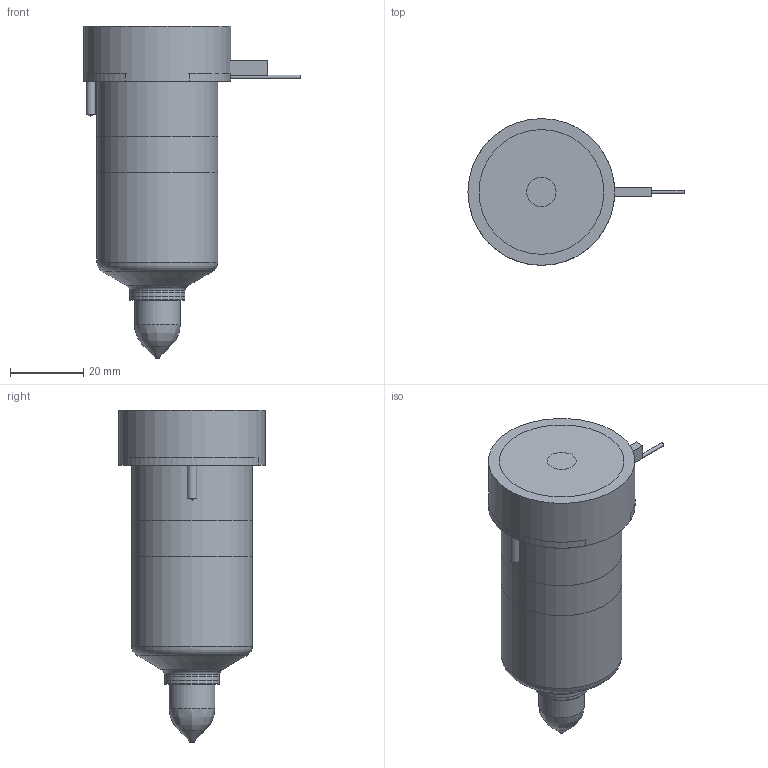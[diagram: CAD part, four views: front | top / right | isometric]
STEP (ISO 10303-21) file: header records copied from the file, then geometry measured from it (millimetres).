
FILE_DESCRIPTION(/* description */ (''),/* implementation_level */ '2;1');
FILE_NAME(/* name */ 'BXTT-BXIT19065-10_250C_b',/* time_stamp */ '2007-01-18T10:00:08+13:00',/* author */ (''),/* organization */ (''),/* preprocessor_version */ 'ST-DEVELOPER v9',/* originating_system */ 'UGS - NX 4.0',/* authorisation */ '');
FILE_SCHEMA (('CONFIG_CONTROL_DESIGN'));
Length unit declared in the file: millimetre
Products named in the file (1): BXTT-BXIT19065-10_250C_b
Bounding box: 58.85 x 40 x 90.45 mm (x, y, z)
Volume: 127528.2 mm3; surface area: 24039.1 mm2
Topology: 6 solids, 6 shells, 82 faces, 162 edges, 102 vertices
Faces by surface type: plane 35, cylinder 25, cone 12, torus 8, bspline 2
Full cylindrical faces by diameter (mm): 1 x3, 1.2 x1, 2.5 x2, 8 x1, 9 x1, 12.5 x1, 14.61 x1, 15.01 x2, 18.3 x1, 28.6 x1, 33 x2, 40 x1
Entity records: 2043 total; most frequent: CARTESIAN_POINT 427, DIRECTION 340, ORIENTED_EDGE 236, AXIS2_PLACEMENT_3D 151, EDGE_LOOP 128, EDGE_CURVE 118, VERTEX_POINT 95, ADVANCED_FACE 82
